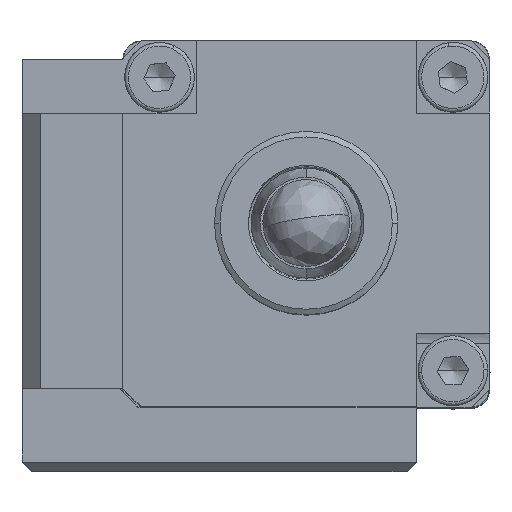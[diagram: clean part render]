
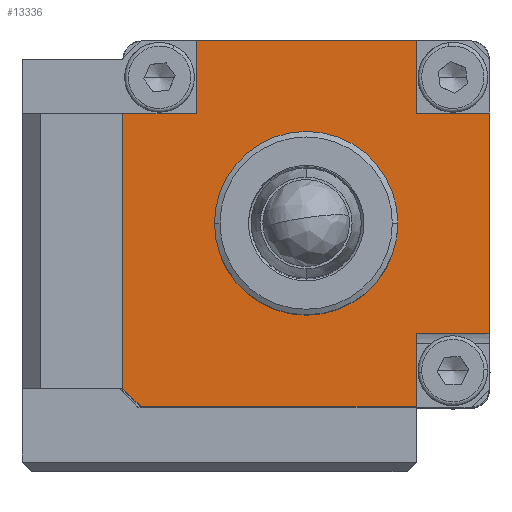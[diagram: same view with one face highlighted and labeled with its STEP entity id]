
A CAD part, top view. The second image highlights one B-rep face of the part: STEP entity #13336.
In plain terms, the highlighted planar face has unit normal (0, 0, 1).
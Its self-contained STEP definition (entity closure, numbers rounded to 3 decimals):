
#24 = DIRECTION ( 'NONE',  ( 1., 0., 0. ) ) ;
#25 = VECTOR ( 'NONE', #24, 1000. ) ;
#26 = CARTESIAN_POINT ( 'NONE',  ( 9.975, 4.025, 23. ) ) ;
#27 = LINE ( 'NONE', #26, #25 ) ;
#48 = CARTESIAN_POINT ( 'NONE',  ( 15.975, 4.025, 23. ) ) ;
#85 = CARTESIAN_POINT ( 'NONE',  ( 15.975, 0.025, 23. ) ) ;
#86 = DIRECTION ( 'NONE',  ( 1., 0., 0. ) ) ;
#87 = VECTOR ( 'NONE', #86, 1000. ) ;
#88 = CARTESIAN_POINT ( 'NONE',  ( 9.975, 0.025, 23. ) ) ;
#89 = LINE ( 'NONE', #88, #87 ) ;
#140 = DIRECTION ( 'NONE',  ( 0., -1., 0. ) ) ;
#141 = VECTOR ( 'NONE', #140, 1000. ) ;
#142 = CARTESIAN_POINT ( 'NONE',  ( 3.975, 20.161, 23. ) ) ;
#143 = LINE ( 'NONE', #142, #141 ) ;
#144 = CARTESIAN_POINT ( 'NONE',  ( 3.975, 20.025, 23. ) ) ;
#145 = DIRECTION ( 'NONE',  ( 1., 0., 0. ) ) ;
#146 = VECTOR ( 'NONE', #145, 1000. ) ;
#147 = CARTESIAN_POINT ( 'NONE',  ( -0.025, 20.025, 23. ) ) ;
#148 = LINE ( 'NONE', #147, #146 ) ;
#149 = DIRECTION ( 'NONE',  ( 0., -1., 0. ) ) ;
#150 = VECTOR ( 'NONE', #149, 1000. ) ;
#151 = CARTESIAN_POINT ( 'NONE',  ( 15.975, -3.475, 23. ) ) ;
#152 = LINE ( 'NONE', #151, #150 ) ;
#163 = DIRECTION ( 'NONE',  ( 1., 0., 0. ) ) ;
#164 = VECTOR ( 'NONE', #163, 1000. ) ;
#165 = CARTESIAN_POINT ( 'NONE',  ( -0.025, 16.025, 23. ) ) ;
#166 = LINE ( 'NONE', #165, #164 ) ;
#167 = CARTESIAN_POINT ( 'NONE',  ( 3.975, 16.025, 23. ) ) ;
#178 = DIRECTION ( 'NONE',  ( 0., -1., 0. ) ) ;
#179 = DIRECTION ( 'NONE',  ( 0., 0., 1. ) ) ;
#180 = CARTESIAN_POINT ( 'NONE',  ( 9.975, 10.025, 23. ) ) ;
#181 = AXIS2_PLACEMENT_3D ( 'NONE', #180, #179, #178 ) ;
#182 = PLANE ( 'NONE',  #181 ) ;
#183 = FACE_BOUND ( 'NONE', #13306, .T. ) ;
#184 = FACE_OUTER_BOUND ( 'NONE', #13337, .T. ) ;
#8184 = CARTESIAN_POINT ( 'NONE',  ( 14.475, 10.025, 23. ) ) ;
#8185 = CARTESIAN_POINT ( 'NONE',  ( 5.475, 10.025, 23. ) ) ;
#8292 = DIRECTION ( 'NONE',  ( 1., 0., 0. ) ) ;
#8293 = DIRECTION ( 'NONE',  ( 0., 0., -1. ) ) ;
#8294 = CARTESIAN_POINT ( 'NONE',  ( 9.975, 10.025, 23. ) ) ;
#8295 = AXIS2_PLACEMENT_3D ( 'NONE', #8294, #8293, #8292 ) ;
#8296 = CIRCLE ( 'NONE', #8295, 4.5 ) ;
#12724 = EDGE_CURVE ( 'NONE', #17483, #17481, #23861, .T. ) ;
#12795 = VERTEX_POINT ( 'NONE', #23881 ) ;
#12797 = EDGE_CURVE ( 'NONE', #12822, #12795, #23880, .T. ) ;
#12820 = EDGE_CURVE ( 'NONE', #12821, #12822, #23919, .T. ) ;
#12821 = VERTEX_POINT ( 'NONE', #23915 ) ;
#12822 = VERTEX_POINT ( 'NONE', #23914 ) ;
#12849 = VERTEX_POINT ( 'NONE', #23944 ) ;
#12851 = EDGE_CURVE ( 'NONE', #12795, #12849, #23943, .T. ) ;
#13070 = EDGE_CURVE ( 'NONE', #13071, #13072, #24288, .T. ) ;
#13071 = VERTEX_POINT ( 'NONE', #24284 ) ;
#13072 = VERTEX_POINT ( 'NONE', #24283 ) ;
#13151 = VERTEX_POINT ( 'NONE', #24378 ) ;
#13153 = EDGE_CURVE ( 'NONE', #13072, #13151, #24379, .T. ) ;
#13225 = EDGE_CURVE ( 'NONE', #13248, #12821, #27, .T. ) ;
#13248 = VERTEX_POINT ( 'NONE', #48 ) ;
#13268 = EDGE_CURVE ( 'NONE', #13151, #13269, #89, .T. ) ;
#13269 = VERTEX_POINT ( 'NONE', #85 ) ;
#13302 = VERTEX_POINT ( 'NONE', #167 ) ;
#13303 = ORIENTED_EDGE ( 'NONE', *, *, #13304, .F. ) ;
#13304 = EDGE_CURVE ( 'NONE', #13071, #13302, #166, .T. ) ;
#13305 = ORIENTED_EDGE ( 'NONE', *, *, #13070, .T. ) ;
#13306 = EDGE_LOOP ( 'NONE', ( #13307, #13308 ) ) ;
#13307 = ORIENTED_EDGE ( 'NONE', *, *, #12724, .T. ) ;
#13308 = ORIENTED_EDGE ( 'NONE', *, *, #17545, .T. ) ;
#13315 = ORIENTED_EDGE ( 'NONE', *, *, #13316, .F. ) ;
#13316 = EDGE_CURVE ( 'NONE', #13248, #13269, #152, .T. ) ;
#13317 = ORIENTED_EDGE ( 'NONE', *, *, #13225, .T. ) ;
#13318 = ORIENTED_EDGE ( 'NONE', *, *, #12820, .T. ) ;
#13319 = ORIENTED_EDGE ( 'NONE', *, *, #12797, .T. ) ;
#13320 = ORIENTED_EDGE ( 'NONE', *, *, #12851, .T. ) ;
#13321 = ORIENTED_EDGE ( 'NONE', *, *, #13322, .F. ) ;
#13322 = EDGE_CURVE ( 'NONE', #13323, #12849, #148, .T. ) ;
#13323 = VERTEX_POINT ( 'NONE', #144 ) ;
#13324 = ORIENTED_EDGE ( 'NONE', *, *, #13325, .T. ) ;
#13325 = EDGE_CURVE ( 'NONE', #13323, #13302, #143, .T. ) ;
#13336 = ADVANCED_FACE ( 'NONE', ( #184, #183 ), #182, .T. ) ;
#13337 = EDGE_LOOP ( 'NONE', ( #13338, #13339, #13315, #13317, #13318, #13319, #13320, #13321, #13324, #13303, #13305 ) ) ;
#13338 = ORIENTED_EDGE ( 'NONE', *, *, #13153, .T. ) ;
#13339 = ORIENTED_EDGE ( 'NONE', *, *, #13268, .T. ) ;
#17481 = VERTEX_POINT ( 'NONE', #8185 ) ;
#17483 = VERTEX_POINT ( 'NONE', #8184 ) ;
#17545 = EDGE_CURVE ( 'NONE', #17481, #17483, #8296, .T. ) ;
#23857 = DIRECTION ( 'NONE',  ( 1., 0., 0. ) ) ;
#23858 = DIRECTION ( 'NONE',  ( 0., 0., -1. ) ) ;
#23859 = CARTESIAN_POINT ( 'NONE',  ( 9.975, 10.025, 23. ) ) ;
#23860 = AXIS2_PLACEMENT_3D ( 'NONE', #23859, #23858, #23857 ) ;
#23861 = CIRCLE ( 'NONE', #23860, 4.5 ) ;
#23877 = DIRECTION ( 'NONE',  ( -1., 0., 0. ) ) ;
#23878 = VECTOR ( 'NONE', #23877, 1000. ) ;
#23879 = CARTESIAN_POINT ( 'NONE',  ( 9.975, 16.025, 23. ) ) ;
#23880 = LINE ( 'NONE', #23879, #23878 ) ;
#23881 = CARTESIAN_POINT ( 'NONE',  ( 15.975, 16.025, 23. ) ) ;
#23914 = CARTESIAN_POINT ( 'NONE',  ( 19.975, 16.025, 23. ) ) ;
#23915 = CARTESIAN_POINT ( 'NONE',  ( 19.975, 4.025, 23. ) ) ;
#23916 = DIRECTION ( 'NONE',  ( 0., 1., 0. ) ) ;
#23917 = VECTOR ( 'NONE', #23916, 1000. ) ;
#23918 = CARTESIAN_POINT ( 'NONE',  ( 19.975, 10.025, 23. ) ) ;
#23919 = LINE ( 'NONE', #23918, #23917 ) ;
#23942 = CARTESIAN_POINT ( 'NONE',  ( 15.975, 10.025, 23. ) ) ;
#23943 = LINE ( 'NONE', #23942, #24004 ) ;
#23944 = CARTESIAN_POINT ( 'NONE',  ( 15.975, 20.025, 23. ) ) ;
#24003 = DIRECTION ( 'NONE',  ( 0., 1., 0. ) ) ;
#24004 = VECTOR ( 'NONE', #24003, 1000. ) ;
#24283 = CARTESIAN_POINT ( 'NONE',  ( -0.025, 1.03, 23. ) ) ;
#24284 = CARTESIAN_POINT ( 'NONE',  ( -0.025, 16.025, 23. ) ) ;
#24285 = DIRECTION ( 'NONE',  ( 0., -1., 0. ) ) ;
#24286 = VECTOR ( 'NONE', #24285, 1000. ) ;
#24287 = CARTESIAN_POINT ( 'NONE',  ( -0.025, 10.025, 23. ) ) ;
#24288 = LINE ( 'NONE', #24287, #24286 ) ;
#24378 = CARTESIAN_POINT ( 'NONE',  ( 0.98, 0.025, 23. ) ) ;
#24379 = CIRCLE ( 'NONE', #24439, 13.45 ) ;
#24436 = DIRECTION ( 'NONE',  ( 1., 0., 0. ) ) ;
#24437 = DIRECTION ( 'NONE',  ( 0., 0., 1. ) ) ;
#24438 = CARTESIAN_POINT ( 'NONE',  ( 9.975, 10.025, 23. ) ) ;
#24439 = AXIS2_PLACEMENT_3D ( 'NONE', #24438, #24437, #24436 ) ;
